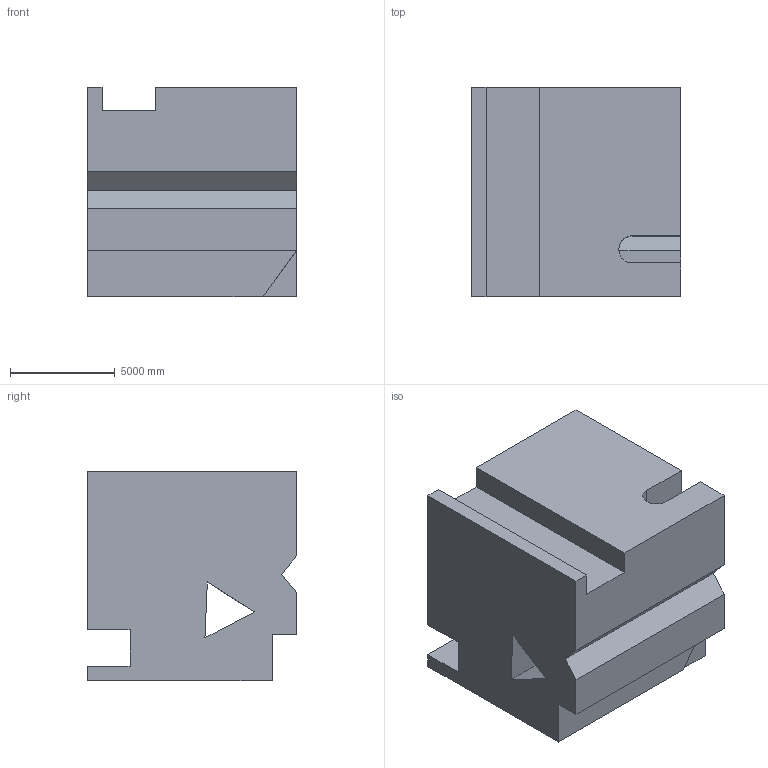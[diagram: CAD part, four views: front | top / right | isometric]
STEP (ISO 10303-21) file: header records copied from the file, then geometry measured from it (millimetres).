
FILE_DESCRIPTION (( 'STEP AP203' ), '1' );
FILE_NAME ('1691.STEP', '2022-08-19T11:45:53', ( 'user' ), ( '' ), 'SwSTEP 2.0', 'SolidWorks 2021', '' );
FILE_SCHEMA (( 'CONFIG_CONTROL_DESIGN' ));
Length unit declared in the file: centimetre
Products named in the file (1): 1691
Bounding box: 10000 x 10000 x 10000 mm (x, y, z)
Volume: 848711860388.9 mm3; surface area: 752974602.5 mm2
Topology: 1 solids, 1 shells, 28 faces, 81 edges, 54 vertices
Faces by surface type: plane 27, cylinder 1
Entity records: 988 total; most frequent: CARTESIAN_POINT 167, ORIENTED_EDGE 162, DIRECTION 140, EDGE_CURVE 81, VECTOR 78, LINE 78, VERTEX_POINT 54, AXIS2_PLACEMENT_3D 31
